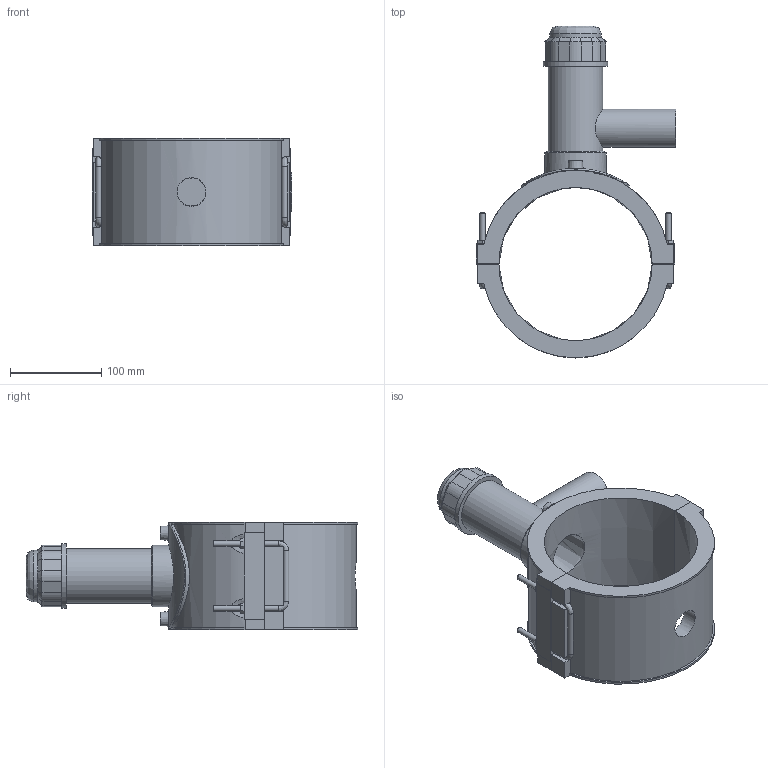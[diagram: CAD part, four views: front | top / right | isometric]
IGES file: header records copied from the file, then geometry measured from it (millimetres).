
Global section: file name: 5963BB03060013.ipt; native system: Autodesk Inventor 2019; preprocessor: unknown; author: KIM; date: 20210830.101424; units: millimetre
Bounding box: 218.93 x 363.85 x 118.11 mm (x, y, z)
Volume: 1534431.8 mm3; surface area: 260597.1 mm2
Topology: 1 solids, 1 shells, 195 faces, 507 edges, 330 vertices
Faces by surface type: plane 120, cylinder 35, revolution 20, cone 15, bspline 5
Full cylindrical faces by diameter (mm): 4 x2, 6 x10, 42.1 x1, 56.448 x1, 59.976 x1, 67.032 x1, 70.56 x1, 117.6 x1
